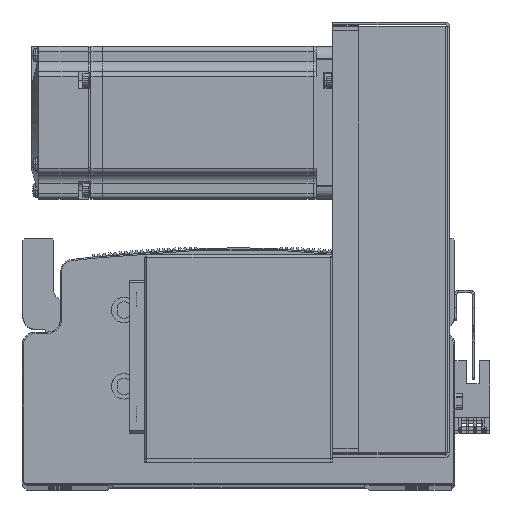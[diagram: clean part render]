
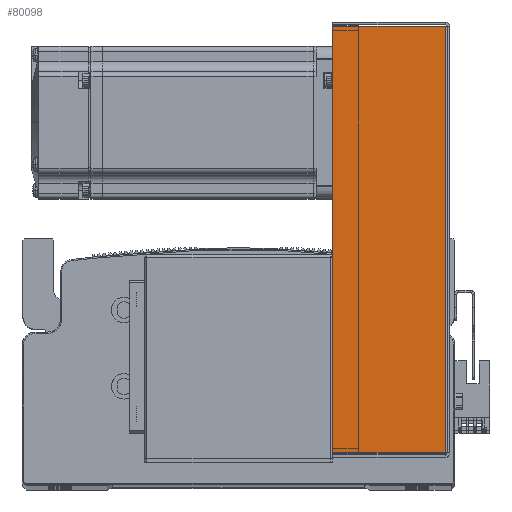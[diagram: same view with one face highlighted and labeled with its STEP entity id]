
A CAD part, top view. The second image highlights one B-rep face of the part: STEP entity #80098.
In plain terms, the highlighted planar face has unit normal (0, 0, 1).
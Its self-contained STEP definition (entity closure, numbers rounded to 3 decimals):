
#1094 = FACE_OUTER_BOUND ( 'NONE', #60088, .T. ) ;
#7521 = AXIS2_PLACEMENT_3D ( 'NONE', #50453, #50446, #50423 ) ;
#18434 = LINE ( 'NONE', #28097, #18452 ) ;
#18452 = VECTOR ( 'NONE', #28098, 1000. ) ;
#18466 = VECTOR ( 'NONE', #28064, 1000. ) ;
#18474 = LINE ( 'NONE', #28029, #18466 ) ;
#18535 = VECTOR ( 'NONE', #28218, 1000. ) ;
#18542 = VECTOR ( 'NONE', #28880, 1000. ) ;
#18546 = LINE ( 'NONE', #28241, #18535 ) ;
#18556 = LINE ( 'NONE', #28846, #18542 ) ;
#28029 = CARTESIAN_POINT ( 'NONE',  ( 83.793, 0., 40.5 ) ) ;
#28064 = DIRECTION ( 'NONE',  ( 0., 1., 0. ) ) ;
#28097 = CARTESIAN_POINT ( 'NONE',  ( -83.793, 0., 40.5 ) ) ;
#28098 = DIRECTION ( 'NONE',  ( 0., 1., 0. ) ) ;
#28218 = DIRECTION ( 'NONE',  ( -1., 0., 0. ) ) ;
#28241 = CARTESIAN_POINT ( 'NONE',  ( -84.5, 45., 40.5 ) ) ;
#28846 = CARTESIAN_POINT ( 'NONE',  ( 0., 0.737, 40.5 ) ) ;
#28880 = DIRECTION ( 'NONE',  ( -1., 0., 0. ) ) ;
#38463 = CARTESIAN_POINT ( 'NONE',  ( 83.793, 45., 40.5 ) ) ;
#38468 = CARTESIAN_POINT ( 'NONE',  ( -83.793, 45., 40.5 ) ) ;
#38475 = CARTESIAN_POINT ( 'NONE',  ( -83.793, 0.737, 40.5 ) ) ;
#38508 = CARTESIAN_POINT ( 'NONE',  ( 83.793, 0.737, 40.5 ) ) ;
#47135 = VERTEX_POINT ( 'NONE', #38463 ) ;
#47177 = VERTEX_POINT ( 'NONE', #38468 ) ;
#47215 = VERTEX_POINT ( 'NONE', #38475 ) ;
#47216 = VERTEX_POINT ( 'NONE', #38508 ) ;
#50423 = DIRECTION ( 'NONE',  ( -1., 0., 0. ) ) ;
#50446 = DIRECTION ( 'NONE',  ( 0., 0., -1. ) ) ;
#50453 = CARTESIAN_POINT ( 'NONE',  ( 0., 0., 40.5 ) ) ;
#50456 = PLANE ( 'NONE',  #7521 ) ;
#60088 = EDGE_LOOP ( 'NONE', ( #72480, #72424, #72449, #72547 ) ) ;
#63706 = EDGE_CURVE ( 'NONE', #47216, #47135, #18474, .T. ) ;
#63721 = EDGE_CURVE ( 'NONE', #47215, #47177, #18434, .T. ) ;
#63790 = EDGE_CURVE ( 'NONE', #47135, #47177, #18546, .T. ) ;
#63805 = EDGE_CURVE ( 'NONE', #47216, #47215, #18556, .T. ) ;
#72424 = ORIENTED_EDGE ( 'NONE', *, *, #63706, .T. ) ;
#72449 = ORIENTED_EDGE ( 'NONE', *, *, #63790, .T. ) ;
#72480 = ORIENTED_EDGE ( 'NONE', *, *, #63805, .F. ) ;
#72547 = ORIENTED_EDGE ( 'NONE', *, *, #63721, .F. ) ;
#80098 = ADVANCED_FACE ( 'NONE', ( #1094 ), #50456, .F. ) ;
